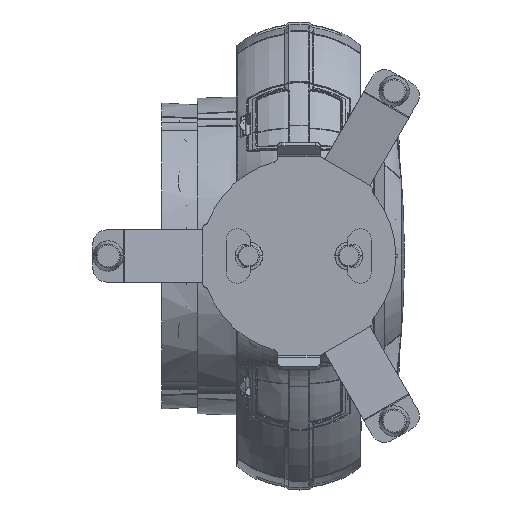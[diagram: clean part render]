
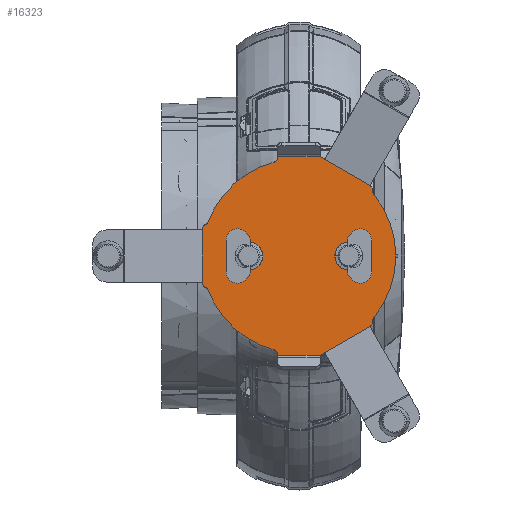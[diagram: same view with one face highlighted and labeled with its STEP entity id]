
A CAD part, front view. The second image highlights one B-rep face of the part: STEP entity #16323.
In plain terms, the highlighted planar face has unit normal (0, -1, 0).
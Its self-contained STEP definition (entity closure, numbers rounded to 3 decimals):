
#15061=CARTESIAN_POINT('',(58.668,-43.5,-57.262));
#15062=DIRECTION('',(0.,-1.,0.));
#15063=DIRECTION('',(0.613,0.,-0.79));
#15064=AXIS2_PLACEMENT_3D('',#15061,#15062,#15063);
#15066=DIRECTION('',(-0.866,0.,-0.5));
#15067=VECTOR('',#15066,46.263);
#15068=CARTESIAN_POINT('',(62.962,-43.5,-62.79));
#15069=LINE('',#15068,#15067);
#15070=DIRECTION('',(0.866,0.,0.5));
#15071=VECTOR('',#15070,4.5);
#15072=CARTESIAN_POINT('',(19.,-43.5,-88.172));
#15073=LINE('',#15072,#15071);
#15074=DIRECTION('',(0.,0.,-1.));
#15075=VECTOR('',#15074,1.16);
#15076=CARTESIAN_POINT('',(-19.,-43.5,-87.011));
#15077=LINE('',#15076,#15075);
#15078=CARTESIAN_POINT('',(-78.924,-43.5,-22.177));
#15079=DIRECTION('',(0.,-1.,0.));
#15080=DIRECTION('',(-0.991,0.,-0.136));
#15081=AXIS2_PLACEMENT_3D('',#15078,#15079,#15080);
#15083=DIRECTION('',(0.,0.,1.));
#15084=VECTOR('',#15083,46.263);
#15085=CARTESIAN_POINT('',(-85.859,-43.5,-23.131));
#15086=LINE('',#15085,#15084);
#15087=CARTESIAN_POINT('',(-78.924,-43.5,22.177));
#15088=DIRECTION('',(0.,-1.,0.));
#15089=DIRECTION('',(-0.478,0.,0.878));
#15090=AXIS2_PLACEMENT_3D('',#15087,#15088,#15089);
#15092=DIRECTION('',(0.,0.,-1.));
#15093=VECTOR('',#15092,1.16);
#15094=CARTESIAN_POINT('',(-19.,-43.5,88.172));
#15095=LINE('',#15094,#15093);
#15096=DIRECTION('',(-0.866,0.,0.5));
#15097=VECTOR('',#15096,4.5);
#15098=CARTESIAN_POINT('',(22.897,-43.5,85.922));
#15099=LINE('',#15098,#15097);
#15100=DIRECTION('',(0.866,0.,-0.5));
#15101=VECTOR('',#15100,46.263);
#15102=CARTESIAN_POINT('',(22.897,-43.5,85.922));
#15103=LINE('',#15102,#15101);
#15104=CARTESIAN_POINT('',(58.668,-43.5,57.262));
#15105=DIRECTION('',(0.,-1.,0.));
#15106=DIRECTION('',(1.,0.,-0.025));
#15107=AXIS2_PLACEMENT_3D('',#15104,#15105,#15106);
#15169=CARTESIAN_POINT('',(0.,-43.5,0.));
#15170=DIRECTION('',(0.,-1.,0.));
#15171=DIRECTION('',(-0.256,0.,0.967));
#15172=AXIS2_PLACEMENT_3D('',#15169,#15170,#15171);
#15179=CARTESIAN_POINT('',(0.,-43.5,0.));
#15180=DIRECTION('',(0.,-1.,0.));
#15181=DIRECTION('',(-0.935,0.,-0.354));
#15182=AXIS2_PLACEMENT_3D('',#15179,#15180,#15181);
#15189=CARTESIAN_POINT('',(0.,-43.5,0.));
#15190=DIRECTION('',(0.,-1.,0.));
#15191=DIRECTION('',(0.774,0.,-0.633));
#15192=AXIS2_PLACEMENT_3D('',#15189,#15190,#15191);
#15255=DIRECTION('',(1.,0.,0.));
#15256=VECTOR('',#15255,38.);
#15257=CARTESIAN_POINT('',(-19.,-43.5,88.172));
#15258=LINE('',#15257,#15256);
#15309=DIRECTION('',(-1.,0.,0.));
#15310=VECTOR('',#15309,38.);
#15311=CARTESIAN_POINT('',(19.,-43.5,-88.172));
#15312=LINE('',#15311,#15310);
#15725=CARTESIAN_POINT('',(-23.,-43.5,87.011));
#15726=DIRECTION('',(0.,1.,0.));
#15727=DIRECTION('',(1.,0.,0.));
#15728=AXIS2_PLACEMENT_3D('',#15725,#15726,#15727);
#15752=CARTESIAN_POINT('',(-84.18,-43.5,31.84));
#15753=DIRECTION('',(0.,1.,0.));
#15754=DIRECTION('',(0.935,0.,-0.354));
#15755=AXIS2_PLACEMENT_3D('',#15752,#15753,#15754);
#15761=CARTESIAN_POINT('',(-84.18,-43.5,-31.84));
#15762=DIRECTION('',(0.,1.,0.));
#15763=DIRECTION('',(0.478,0.,0.878));
#15764=AXIS2_PLACEMENT_3D('',#15761,#15762,#15763);
#15788=CARTESIAN_POINT('',(-23.,-43.5,-87.011));
#15789=DIRECTION('',(0.,1.,0.));
#15790=DIRECTION('',(0.256,0.,0.967));
#15791=AXIS2_PLACEMENT_3D('',#15788,#15789,#15790);
#15797=CARTESIAN_POINT('',(69.664,-43.5,-56.982));
#15798=DIRECTION('',(0.,1.,0.));
#15799=DIRECTION('',(-1.,0.,-0.025));
#15800=AXIS2_PLACEMENT_3D('',#15797,#15798,#15799);
#15824=CARTESIAN_POINT('',(69.664,-43.5,56.982));
#15825=DIRECTION('',(0.,1.,0.));
#15826=DIRECTION('',(-0.774,0.,-0.633));
#15827=AXIS2_PLACEMENT_3D('',#15824,#15825,#15826);
#16005=CARTESIAN_POINT('',(-19.,-43.5,88.172));
#16006=VERTEX_POINT('',#16005);
#16027=CARTESIAN_POINT('',(-19.,-43.5,-88.172));
#16028=VERTEX_POINT('',#16027);
#16029=CARTESIAN_POINT('',(19.,-43.5,88.172));
#16030=VERTEX_POINT('',#16029);
#16031=CARTESIAN_POINT('',(19.,-43.5,-88.172));
#16032=VERTEX_POINT('',#16031);
#16125=CARTESIAN_POINT('',(-19.,-43.5,87.011));
#16127=VERTEX_POINT('',#16125);
#16129=CARTESIAN_POINT('',(-21.978,-43.5,83.144));
#16131=VERTEX_POINT('',#16129);
#16134=CARTESIAN_POINT('',(-80.438,-43.5,30.425));
#16136=VERTEX_POINT('',#16134);
#16137=CARTESIAN_POINT('',(-80.438,-43.5,-30.425));
#16139=VERTEX_POINT('',#16137);
#16142=CARTESIAN_POINT('',(-19.,-43.5,-87.011));
#16144=VERTEX_POINT('',#16142);
#16146=CARTESIAN_POINT('',(-21.978,-43.5,-83.144));
#16148=VERTEX_POINT('',#16146);
#16149=CARTESIAN_POINT('',(66.568,-43.5,-54.449));
#16151=VERTEX_POINT('',#16149);
#16154=CARTESIAN_POINT('',(66.568,-43.5,54.449));
#16156=VERTEX_POINT('',#16154);
#16213=CARTESIAN_POINT('',(22.897,-43.5,85.922));
#16214=VERTEX_POINT('',#16213);
#16215=CARTESIAN_POINT('',(22.897,-43.5,-85.922));
#16216=VERTEX_POINT('',#16215);
#16217=CARTESIAN_POINT('',(62.962,-43.5,-62.79));
#16218=CARTESIAN_POINT('',(65.666,-43.5,-57.084));
#16219=VERTEX_POINT('',#16217);
#16220=VERTEX_POINT('',#16218);
#16223=CARTESIAN_POINT('',(65.666,-43.5,57.084));
#16225=VERTEX_POINT('',#16223);
#16227=CARTESIAN_POINT('',(62.962,-43.5,62.79));
#16228=VERTEX_POINT('',#16227);
#16229=CARTESIAN_POINT('',(-85.859,-43.5,-23.131));
#16230=CARTESIAN_POINT('',(-82.269,-43.5,-28.326));
#16231=VERTEX_POINT('',#16229);
#16232=VERTEX_POINT('',#16230);
#16235=CARTESIAN_POINT('',(-85.859,-43.5,23.131));
#16236=VERTEX_POINT('',#16235);
#16237=CARTESIAN_POINT('',(-82.269,-43.5,28.326));
#16239=VERTEX_POINT('',#16237);
#16272=CARTESIAN_POINT('',(0.,-43.5,0.));
#16273=DIRECTION('',(0.,1.,0.));
#16274=DIRECTION('',(-1.,0.,0.));
#16275=AXIS2_PLACEMENT_3D('',#16272,#16273,#16274);
#16276=PLANE('',#16275);
#16278=ORIENTED_EDGE('',*,*,#16277,.F.);
#16280=ORIENTED_EDGE('',*,*,#16279,.T.);
#16282=ORIENTED_EDGE('',*,*,#16281,.F.);
#16284=ORIENTED_EDGE('',*,*,#16283,.T.);
#16286=ORIENTED_EDGE('',*,*,#16285,.F.);
#16288=ORIENTED_EDGE('',*,*,#16287,.F.);
#16290=ORIENTED_EDGE('',*,*,#16289,.F.);
#16292=ORIENTED_EDGE('',*,*,#16291,.F.);
#16294=ORIENTED_EDGE('',*,*,#16293,.F.);
#16296=ORIENTED_EDGE('',*,*,#16295,.T.);
#16298=ORIENTED_EDGE('',*,*,#16297,.F.);
#16300=ORIENTED_EDGE('',*,*,#16299,.F.);
#16302=ORIENTED_EDGE('',*,*,#16301,.F.);
#16304=ORIENTED_EDGE('',*,*,#16303,.F.);
#16306=ORIENTED_EDGE('',*,*,#16305,.F.);
#16308=ORIENTED_EDGE('',*,*,#16307,.T.);
#16310=ORIENTED_EDGE('',*,*,#16309,.F.);
#16312=ORIENTED_EDGE('',*,*,#16311,.T.);
#16314=ORIENTED_EDGE('',*,*,#16313,.F.);
#16316=ORIENTED_EDGE('',*,*,#16315,.F.);
#16318=ORIENTED_EDGE('',*,*,#16317,.F.);
#16320=ORIENTED_EDGE('',*,*,#16319,.F.);
#16321=EDGE_LOOP('',(#16278,#16280,#16282,#16284,#16286,#16288,#16290,#16292,
#16294,#16296,#16298,#16300,#16302,#16304,#16306,#16308,#16310,#16312,#16314,
#16316,#16318,#16320));
#16322=FACE_OUTER_BOUND('',#16321,.F.);
#15065=CIRCLE('',#15064,7.);
#15082=CIRCLE('',#15081,7.);
#15091=CIRCLE('',#15090,7.);
#15108=CIRCLE('',#15107,7.);
#15173=CIRCLE('',#15172,86.);
#15183=CIRCLE('',#15182,86.);
#15193=CIRCLE('',#15192,86.);
#15729=CIRCLE('',#15728,4.);
#15756=CIRCLE('',#15755,4.);
#15765=CIRCLE('',#15764,4.);
#15792=CIRCLE('',#15791,4.);
#15801=CIRCLE('',#15800,4.);
#15828=CIRCLE('',#15827,4.);
#16277=EDGE_CURVE('',#16219,#16220,#15065,.T.);
#16279=EDGE_CURVE('',#16219,#16216,#15069,.T.);
#16281=EDGE_CURVE('',#16032,#16216,#15073,.T.);
#16283=EDGE_CURVE('',#16032,#16028,#15312,.T.);
#16285=EDGE_CURVE('',#16144,#16028,#15077,.T.);
#16287=EDGE_CURVE('',#16148,#16144,#15792,.T.);
#16289=EDGE_CURVE('',#16139,#16148,#15183,.T.);
#16291=EDGE_CURVE('',#16232,#16139,#15765,.T.);
#16293=EDGE_CURVE('',#16231,#16232,#15082,.T.);
#16295=EDGE_CURVE('',#16231,#16236,#15086,.T.);
#16297=EDGE_CURVE('',#16239,#16236,#15091,.T.);
#16299=EDGE_CURVE('',#16136,#16239,#15756,.T.);
#16301=EDGE_CURVE('',#16131,#16136,#15173,.T.);
#16303=EDGE_CURVE('',#16127,#16131,#15729,.T.);
#16305=EDGE_CURVE('',#16006,#16127,#15095,.T.);
#16307=EDGE_CURVE('',#16006,#16030,#15258,.T.);
#16309=EDGE_CURVE('',#16214,#16030,#15099,.T.);
#16311=EDGE_CURVE('',#16214,#16228,#15103,.T.);
#16313=EDGE_CURVE('',#16225,#16228,#15108,.T.);
#16315=EDGE_CURVE('',#16156,#16225,#15828,.T.);
#16317=EDGE_CURVE('',#16151,#16156,#15193,.T.);
#16319=EDGE_CURVE('',#16220,#16151,#15801,.T.);
#16323=ADVANCED_FACE('',(#16322),#16276,.F.);
